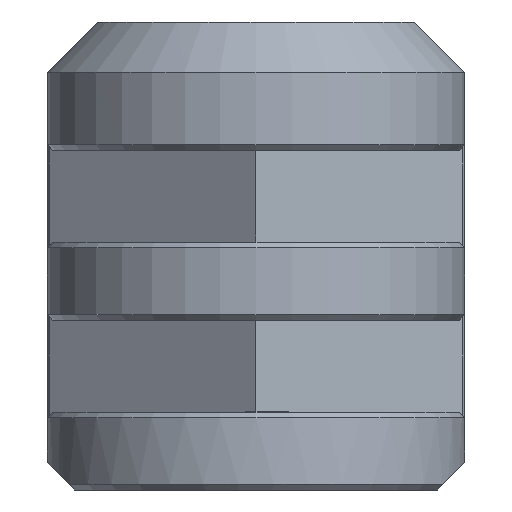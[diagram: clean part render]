
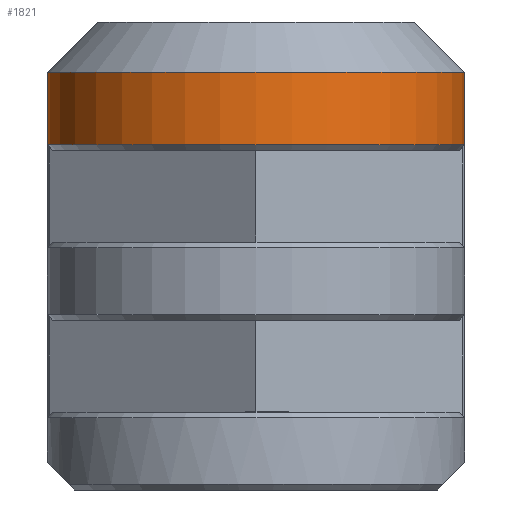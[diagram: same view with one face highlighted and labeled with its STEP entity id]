
A CAD part, left-side view. The second image highlights one B-rep face of the part: STEP entity #1821.
In plain terms, the highlighted cylindrical face has radius 7.5 mm (diameter 15 mm), a partial arc.
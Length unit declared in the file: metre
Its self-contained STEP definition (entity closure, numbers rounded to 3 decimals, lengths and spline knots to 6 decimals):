
#32=ELLIPSE('',#1950,0.010607,0.0075);
#33=ELLIPSE('',#1952,0.010607,0.0075);
#46=CIRCLE('',#1949,0.0075);
#47=CIRCLE('',#1951,0.0075);
#70=CYLINDRICAL_SURFACE('',#1948,0.0075);
#155=ORIENTED_EDGE('',*,*,#647,.T.);
#156=ORIENTED_EDGE('',*,*,#675,.T.);
#157=ORIENTED_EDGE('',*,*,#623,.F.);
#158=ORIENTED_EDGE('',*,*,#676,.T.);
#159=ORIENTED_EDGE('',*,*,#677,.T.);
#160=ORIENTED_EDGE('',*,*,#678,.T.);
#623=EDGE_CURVE('',#885,#886,#1052,.T.);
#647=EDGE_CURVE('',#910,#909,#1076,.T.);
#675=EDGE_CURVE('',#909,#886,#46,.F.);
#676=EDGE_CURVE('',#885,#933,#32,.F.);
#677=EDGE_CURVE('',#933,#934,#47,.F.);
#678=EDGE_CURVE('',#934,#910,#33,.T.);
#885=VERTEX_POINT('',#2621);
#886=VERTEX_POINT('',#2623);
#909=VERTEX_POINT('',#2670);
#910=VERTEX_POINT('',#2672);
#933=VERTEX_POINT('',#2730);
#934=VERTEX_POINT('',#2732);
#1052=LINE('',#2622,#1277);
#1076=LINE('',#2671,#1301);
#1277=VECTOR('',#2096,1.);
#1301=VECTOR('',#2122,1.);
#1494=EDGE_LOOP('',(#155,#156,#157,#158,#159,#160));
#1619=FACE_BOUND('',#1494,.T.);
#1821=ADVANCED_FACE('',(#1619),#70,.T.);
#1948=AXIS2_PLACEMENT_3D('',#2727,#2170,#2171);
#1949=AXIS2_PLACEMENT_3D('',#2728,#2172,#2173);
#1950=AXIS2_PLACEMENT_3D('',#2729,#2174,#2175);
#1951=AXIS2_PLACEMENT_3D('',#2731,#2176,#2177);
#1952=AXIS2_PLACEMENT_3D('',#2733,#2178,#2179);
#2096=DIRECTION('',(0.,0.,-1.));
#2122=DIRECTION('',(0.,0.,-1.));
#2170=DIRECTION('',(0.,0.,-1.));
#2171=DIRECTION('',(-1.,0.,0.));
#2172=DIRECTION('',(0.,0.,-1.));
#2173=DIRECTION('',(-1.,0.,0.));
#2174=DIRECTION('',(0.,0.707,-0.707));
#2175=DIRECTION('',(0.,-0.707,-0.707));
#2176=DIRECTION('',(0.,0.,1.));
#2177=DIRECTION('',(1.,0.,0.));
#2178=DIRECTION('',(0.,0.707,0.707));
#2179=DIRECTION('',(0.,0.707,-0.707));
#2621=CARTESIAN_POINT('',(-0.105,-0.0075,0.014));
#2622=CARTESIAN_POINT('',(-0.105,-0.0075,0.015));
#2623=CARTESIAN_POINT('',(-0.105,-0.0075,0.0124));
#2670=CARTESIAN_POINT('',(-0.105,0.0075,0.0124));
#2671=CARTESIAN_POINT('',(-0.105,0.0075,0.015));
#2672=CARTESIAN_POINT('',(-0.105,0.0075,0.014));
#2727=CARTESIAN_POINT('',(-0.105,0.,0.015));
#2728=CARTESIAN_POINT('',(-0.105,0.,0.0124));
#2729=CARTESIAN_POINT('',(-0.105,0.,0.0215));
#2730=CARTESIAN_POINT('',(-0.101258,-0.0065,0.015));
#2731=CARTESIAN_POINT('',(-0.105,0.,0.015));
#2732=CARTESIAN_POINT('',(-0.101258,0.0065,0.015));
#2733=CARTESIAN_POINT('',(-0.105,0.,0.0215));
